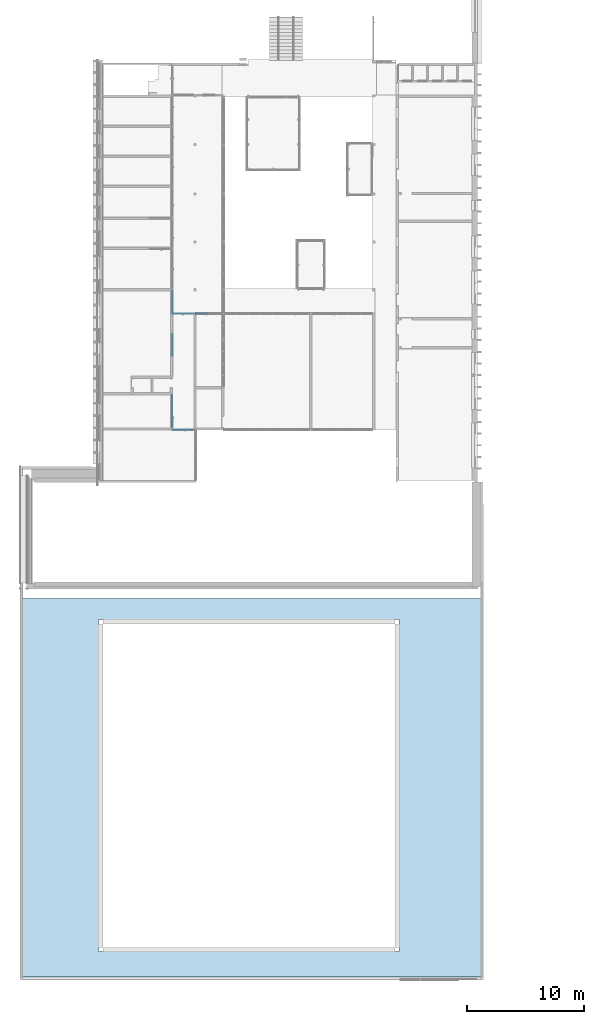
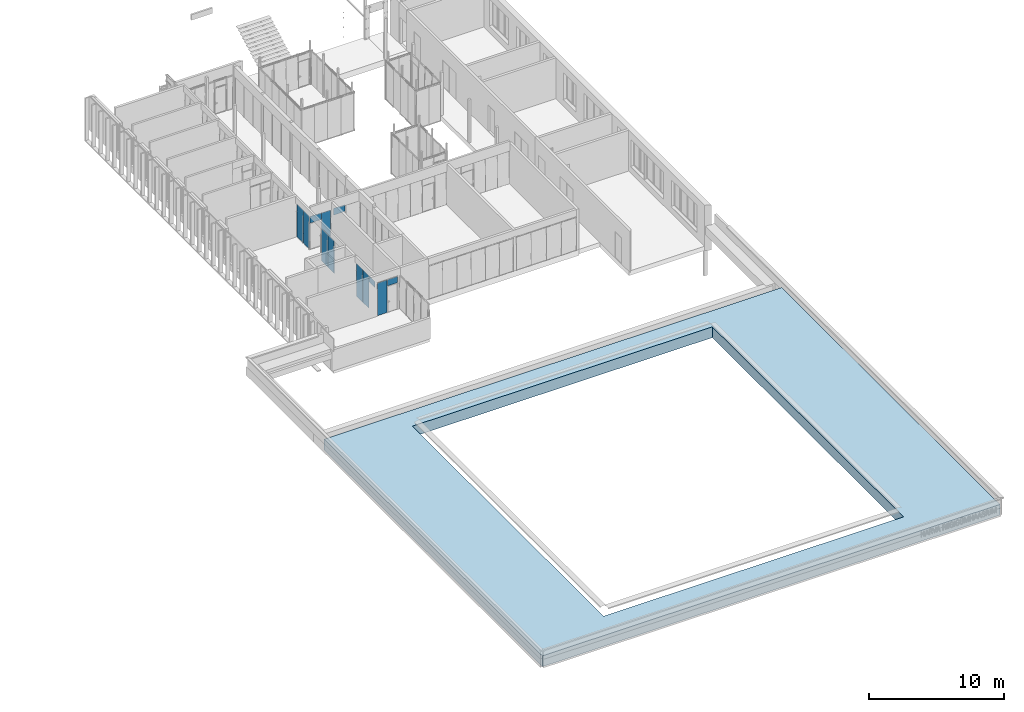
# One storey, part 24 of 387: 12 plates, 1 slab, 1 opening, 6 elements without a shape of their own.
"""IFC2X3 building model written with IfcOpenShell, lengths in millimetres."""

from ifc_helpers import new_model, entity, si_unit, converted_unit, derived_unit, money_unit, direction, frame, origin_with_axes, place, context, subcontext, project, spatial, polyline, outline, extrude, material, layer, layer_set, layer_usage, type_object, element, aggregate, save


model = new_model("IFC2X3")

# Units and contexts
model_context = context("Model", 3, precision=0.01, world=origin_with_axes(), true_north=direction((0.0, 1.0)))
body_context = subcontext(model_context, "Body", "Model", "MODEL_VIEW")
ifc_project = project(units=[si_unit("LENGTHUNIT", "METRE", prefix="MILLI"), si_unit("AREAUNIT", "SQUARE_METRE"), si_unit("VOLUMEUNIT", "CUBIC_METRE"), converted_unit("PLANEANGLEUNIT", "DEGREE", entity("IfcPlaneAngleMeasure", 0.0174532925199), si_unit("PLANEANGLEUNIT", "RADIAN"), dimensions=[0, 0, 0, 0, 0, 0, 0]), si_unit("SOLIDANGLEUNIT", "STERADIAN"), money_unit("EUR"), converted_unit("TIMEUNIT", "Year", entity("IfcTimeMeasure", 31556926.0), si_unit("TIMEUNIT", "SECOND"), dimensions=[0, 0, 1, 0, 0, 0, 0]), si_unit("MASSUNIT", "GRAM", prefix="KILO"), si_unit("THERMODYNAMICTEMPERATUREUNIT", "DEGREE_CELSIUS"), si_unit("LUMINOUSINTENSITYUNIT", "LUMEN"), si_unit("ENERGYUNIT", "JOULE", prefix="MEGA"), derived_unit("THERMALCONDUCTANCEUNIT", [(si_unit("POWERUNIT", "WATT"), 1), (si_unit("LENGTHUNIT", "METRE"), -1), (si_unit("THERMODYNAMICTEMPERATUREUNIT", "KELVIN"), -1)]), derived_unit("SPECIFICHEATCAPACITYUNIT", [(si_unit("ENERGYUNIT", "JOULE"), 1), (si_unit("MASSUNIT", "GRAM", prefix="KILO"), -1), (si_unit("THERMODYNAMICTEMPERATUREUNIT", "KELVIN"), -1)]), derived_unit("MASSDENSITYUNIT", [(si_unit("MASSUNIT", "GRAM", prefix="KILO"), 1), (si_unit("VOLUMEUNIT", "CUBIC_METRE"), -1)])], contexts=[model_context])

# Site, building, storey
site_placement = place(None, origin_with_axes())
site = spatial("IfcSite", under=ifc_project, at=site_placement, Name="Puškini 31, Narva", CompositionType="ELEMENT")
building_placement = place(site_placement, origin_with_axes())
building = spatial("IfcBuilding", under=site, at=building_placement, Name="Narva Riigigümnaasium", CompositionType="ELEMENT")
storey_placement = place(building_placement, frame((0.0, 0.0, 2640.0), z_axis=(0.0, 0.0, 1.0), x_axis=(1.0, 0.0, 0.0)))
storey = spatial("IfcBuildingStorey", under=building, at=storey_placement, Name="2.korrus +2.64", CompositionType="ELEMENT", Elevation=2640.0)

# Curtain wall, plate
curtain_wall_type = type_object("IfcCurtainWallType", Name="Curtain Wall Type", PredefinedType="NOTDEFINED")
curtain_wall_1_placement = place(storey_placement, frame((28389.9972784, 170114.499914, -5.2224053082e-05), z_axis=(0.0, 0.0, 1.0), x_axis=(1.0, 0.0, 0.0)))
curtain_wall_1 = element("IfcCurtainWall", 1, at=curtain_wall_1_placement, inside=storey, type_object=curtain_wall_type, Name="G-SKLF-15.2")
ifc_material_1 = material(Name="VKR-05_Klaas")
plate_type_1 = type_object("IfcPlateType", Name="Siseklaasfassaad - Klaas 15 x 630 x 10", PredefinedType="CURTAIN_PANEL")
plate_1_placement = place(curtain_wall_1_placement, frame((0.0, 0.0, 1692.00001239), z_axis=(0.0, 0.0, 1.0), x_axis=(0.0, -1.0, 0.0)))
plate_1 = element("IfcPlate", 2, at=plate_1_placement, type_object=plate_type_1, material=ifc_material_1, Name="G-SKLF-23-klaas", ObjectType="CURTAIN_PANEL", context=body_context, shape_type="SweptSolid", body=[
    extrude(outline(polyline([(-657.50000666, -1307.99997275), (264.499970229, -1307.99997275), (264.499970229, 1661.99999267), (-657.50000666, 1661.99999267), (-657.50000666, -1307.99997275)])), frame((0.0, -2.5, 0.0), z_axis=(0.0, 1.0, 0.0), x_axis=(1.0, 0.0, 0.0)), (0.0, 0.0, 1.0), 9.00000000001),
])

curtain_wall_2_placement = place(storey_placement, frame((28389.9972784, 173774.499972, -5.2224053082e-05), z_axis=(0.0, 0.0, 1.0), x_axis=(1.0, 0.0, 0.0)))
curtain_wall_2 = element("IfcCurtainWall", 3, at=curtain_wall_2_placement, inside=storey, type_object=curtain_wall_type, Name="G-SKLF-15.2")
plate_2_placement = place(curtain_wall_2_placement, frame((0.0, 0.0, 1692.00001239), z_axis=(0.0, 0.0, 1.0), x_axis=(0.0, -1.0, 0.0)))
plate_2 = element("IfcPlate", 4, at=plate_2_placement, type_object=plate_type_1, material=ifc_material_1, Name="G-SKLF-23-klaas", ObjectType="CURTAIN_PANEL", context=body_context, shape_type="SweptSolid", body=[
    extrude(outline(polyline([(-657.50000666, -1307.99997275), (264.499970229, -1307.99997275), (264.499970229, 1661.99999267), (-657.50000666, 1661.99999267), (-657.50000666, -1307.99997275)])), frame((0.0, -2.5, 0.0), z_axis=(0.0, 1.0, 0.0), x_axis=(1.0, 0.0, 0.0)), (0.0, 0.0, 1.0), 9.00000000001),
])

# Plate
plate_type_2 = type_object("IfcPlateType", Name="Siseklaasfassaad - Klaas 15 x 15 x 10", PredefinedType="CURTAIN_PANEL")
plate_3_placement = place(curtain_wall_1_placement, frame((3.52216034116e-08, 1321.00005713, 1692.00001239), z_axis=(0.0, 0.0, 1.0), x_axis=(0.0, -1.0, 0.0)))
plate_3 = element("IfcPlate", 5, at=plate_3_placement, type_object=plate_type_2, material=ifc_material_1, Name="G-SKLF-23-klaas", ObjectType="CURTAIN_PANEL", context=body_context, shape_type="SweptSolid", body=[
    extrude(outline(polyline([(-264.499961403, -1307.99997275), (660.500044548, -1307.99997275), (660.500044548, 1661.99999267), (-264.499961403, 1661.99999267), (-264.499961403, -1307.99997275)])), frame((0.0, -2.5, 0.0), z_axis=(0.0, 1.0, 0.0), x_axis=(1.0, 0.0, 0.0)), (0.0, 0.0, 1.0), 9.0),
])

aggregate(curtain_wall_1, [plate_1, plate_3])

plate_4_placement = place(curtain_wall_2_placement, frame((3.52216034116e-08, 1321.00005713, 1692.00001239), z_axis=(0.0, 0.0, 1.0), x_axis=(0.0, -1.0, 0.0)))
plate_4 = element("IfcPlate", 6, at=plate_4_placement, type_object=plate_type_2, material=ifc_material_1, Name="G-SKLF-23-klaas", ObjectType="CURTAIN_PANEL", context=body_context, shape_type="SweptSolid", body=[
    extrude(outline(polyline([(-264.499961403, -1307.99997275), (660.500044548, -1307.99997275), (660.500044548, 1661.99999267), (-264.499961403, 1661.99999267), (-264.499961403, -1307.99997275)])), frame((0.0, -2.5, 0.0), z_axis=(0.0, 1.0, 0.0), x_axis=(1.0, 0.0, 0.0)), (0.0, 0.0, 1.0), 9.0),
])

aggregate(curtain_wall_2, [plate_2, plate_4])

# Curtain wall, plates
curtain_wall_3_placement = place(storey_placement, frame((28369.9999994, 164166.500006, -9.21871734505e-06), z_axis=(0.0, 0.0, 1.0), x_axis=(1.0, 0.0, 0.0)))
curtain_wall_3 = element("IfcCurtainWall", 7, at=curtain_wall_3_placement, inside=storey, type_object=curtain_wall_type, Name="G-SKLF-11")
plate_type_3 = type_object("IfcPlateType", Name="901 x 598 x 20", PredefinedType="CURTAIN_PANEL")
plate_5_placement = place(curtain_wall_3_placement, frame((0.0, 0.0, 2715.00000606), z_axis=(0.0, 0.0, 1.0), x_axis=(0.0, -1.0, 0.0)))
plate_5 = element("IfcPlate", 8, at=plate_5_placement, type_object=plate_type_3, material=ifc_material_1, Name="G-SKLF-11-klaas", ObjectType="CURTAIN_PANEL", context=body_context, shape_type="SweptSolid", body=[
    extrude(outline(polyline([(-466.5, -282.999994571), (434.500002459, -282.999994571), (434.500002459, 282.999999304), (-466.5, 282.999999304), (-466.5, -282.999994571)])), frame((0.0, -6.5, 0.0), z_axis=(0.0, 1.0, 0.0), x_axis=(1.0, 0.0, 0.0)), (0.0, 0.0, 1.0), 9.0),
])
plate_type_4 = type_object("IfcPlateType", Name="14 x 630 x 20", PredefinedType="CURTAIN_PANEL")
plate_6_placement = place(curtain_wall_3_placement, frame((1.46513912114e-08, 823.875, 1736.2500034), z_axis=(0.0, 0.0, 1.0), x_axis=(0.0, -1.0, 0.0)))
plate_6 = element("IfcPlate", 9, at=plate_6_placement, type_object=plate_type_4, material=ifc_material_1, Name="G-SKLF-11-klaas", ObjectType="CURTAIN_PANEL", context=body_context, shape_type="SweptSolid", body=[
    extrude(outline(polyline([(-545.624987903, -1263.74997982), (325.374991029, -1263.74997982), (325.374991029, 1706.2499837), (-545.624987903, 1706.2499837), (-545.624987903, -1263.74997982)])), frame((0.0, -6.5, 0.0), z_axis=(0.0, 1.0, 0.0), x_axis=(1.0, 0.0, 0.0)), (0.0, 0.0, 1.0), 9.0),
])

# Curtain wall, plate
curtain_wall_4_placement = place(storey_placement, frame((29819.999977, 163516.999995, -2.6516426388e-05), z_axis=(0.0, 0.0, 1.0), x_axis=(1.0, 0.0, 0.0)))
curtain_wall_4 = element("IfcCurtainWall", 10, at=curtain_wall_4_placement, inside=storey, type_object=curtain_wall_type, Name="G-SKLF-46")
plate_7_placement = place(curtain_wall_4_placement, frame((-871.249999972, 2.42152964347e-08, 1736.25000977), z_axis=(0.0, 0.0, 1.0), x_axis=(1.0, 0.0, 0.0)))
plate_7 = element("IfcPlate", 11, at=plate_7_placement, type_object=plate_type_4, material=ifc_material_1, Name="G-SKLF-46-klaas", ObjectType="CURTAIN_PANEL", context=body_context, shape_type="SweptSolid", body=[
    extrude(outline(polyline([(-518.749994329, -1263.74997885), (309.249990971, -1263.74997885), (309.249990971, 1706.24999002), (-518.749994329, 1706.24999002), (-518.749994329, -1263.74997885)])), frame((0.0, -6.50000002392, 0.0), z_axis=(0.0, 1.0, 0.0), x_axis=(1.0, 0.0, 0.0)), (0.0, 0.0, 1.0), 9.00000002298),
])

# Plate
plate_type_5 = type_object("IfcPlateType", Name="904 x 615 x 20", PredefinedType="CURTAIN_PANEL")
plate_8_placement = place(curtain_wall_3_placement, frame((3.31894511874e-08, 1866.4999973, 1810.00000404), z_axis=(0.0, 0.0, 1.0), x_axis=(0.0, -1.0, 0.0)))
plate_8 = element("IfcPlate", 12, at=plate_8_placement, type_object=plate_type_5, material=ifc_material_1, Name="G-SKLF-11-klaas", ObjectType="CURTAIN_PANEL", context=body_context, shape_type="SweptSolid", body=[
    extrude(outline(polyline([(-436.999985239, -1189.99997917), (466.9999973, -1189.99997917), (466.9999973, 1779.99998434), (-436.999985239, 1779.99998434), (-436.999985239, -1189.99997917)])), frame((0.0, -6.5, 0.0), z_axis=(0.0, 1.0, 0.0), x_axis=(1.0, 0.0, 0.0)), (0.0, 0.0, 1.0), 9.0),
])

aggregate(curtain_wall_3, [plate_5, plate_6, plate_8])

# Curtain wall, plate
curtain_wall_5_placement = place(storey_placement, frame((30909.9999988, 173462.997263, -3.04069565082e-05), z_axis=(0.0, 0.0, 1.0), x_axis=(1.0, 0.0, 0.0)))
curtain_wall_5 = element("IfcCurtainWall", 13, at=curtain_wall_5_placement, inside=storey, type_object=curtain_wall_type, Name="G-SKLF-13")
plate_type_6 = type_object("IfcPlateType", Name="985 x 615 x 10", PredefinedType="CURTAIN_PANEL")
plate_9_placement = place(curtain_wall_5_placement, frame((0.0, 0.0, 2715.00000697), z_axis=(0.0, 0.0, 1.0), x_axis=(-1.0, 0.0, 0.0)))
plate_9 = element("IfcPlate", 14, at=plate_9_placement, type_object=plate_type_6, material=ifc_material_1, Name="G-SKLF-13-klaas", ObjectType="CURTAIN_PANEL", context=body_context, shape_type="SweptSolid", body=[
    extrude(outline(polyline([(-500.0, -314.999978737), (484.999985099, -314.999978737), (484.999985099, 299.999961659), (-500.0, 299.999961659), (-500.0, -314.999978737)])), frame((0.0, -6.50000002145, 0.0), z_axis=(0.0, 1.0, 0.0), x_axis=(1.0, 0.0, 0.0)), (0.0, 0.0, 1.0), 9.00000002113),
])
aggregate(curtain_wall_5, [plate_9])

# Plate
plate_type_7 = type_object("IfcPlateType", Name="868 x 598 x 20", PredefinedType="CURTAIN_PANEL")
plate_10_placement = place(curtain_wall_4_placement, frame((0.0, 0.0, 2652.00001926), z_axis=(0.0, 0.0, 1.0), x_axis=(1.0, 0.0, 0.0)))
plate_10 = element("IfcPlate", 15, at=plate_10_placement, type_object=plate_type_7, material=ifc_material_1, Name="G-SKLF-46-klaas", ObjectType="CURTAIN_PANEL", context=body_context, shape_type="SweptSolid", body=[
    extrude(outline(polyline([(-529.999999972, -345.999989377), (337.999995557, -345.999989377), (337.999995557, 219.999988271), (-529.999999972, 219.999988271), (-529.999999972, -345.999989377)])), frame((0.0, -6.50000002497, 0.0), z_axis=(0.0, 1.0, 0.0), x_axis=(1.0, 0.0, 0.0)), (0.0, 0.0, 1.0), 9.00000002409),
])

aggregate(curtain_wall_4, [plate_10, plate_7])

# Curtain wall, plates
curtain_wall_6_placement = place(storey_placement, frame((28998.3333556, 173449.999984, -2.6516426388e-05), z_axis=(0.0, 0.0, 1.0), x_axis=(1.0, 0.0, 0.0)))
curtain_wall_6 = element("IfcCurtainWall", 16, at=curtain_wall_6_placement, inside=storey, type_object=curtain_wall_type, Name="G-SKLF-15")
ifc_material_2 = material(Name="Klaas")
plate_type_8 = type_object("IfcPlateType", Name="Main Panel 867 x 598 x 20", PredefinedType="CURTAIN_PANEL")
plate_11_placement = place(curtain_wall_6_placement, frame((0.0, 0.0, 2715.00001744), z_axis=(0.0, 0.0, 1.0), x_axis=(-1.0, 0.0, 0.0)))
plate_11 = element("IfcPlate", 17, at=plate_11_placement, type_object=plate_type_8, material=ifc_material_2, Name="G-SKLF-46-klaas", ObjectType="CURTAIN_PANEL", context=body_context, shape_type="SweptSolid", body=[
    extrude(outline(polyline([(-365.666666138, -298.999993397), (600.333340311, -298.999993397), (600.333340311, 298.999987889), (-365.666666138, 298.999987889), (-365.666666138, -298.999993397)])), frame((0.0, -10.0000000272, 0.0), z_axis=(0.0, 1.0, 0.0), x_axis=(1.0, 0.0, 0.0)), (0.0, 0.0, 1.0), 20.0000000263),
])
plate_type_9 = type_object("IfcPlateType", Name="778 x 1 x 20", PredefinedType="CURTAIN_PANEL")
plate_12_placement = place(curtain_wall_6_placement, frame((684.041666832, -1.86730630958e-08, 1736.25000977), z_axis=(0.0, 0.0, 1.0), x_axis=(-1.0, 0.0, 0.0)))
plate_12 = element("IfcPlate", 18, at=plate_12_placement, type_object=plate_type_9, material=ifc_material_1, Name="G-SKLF-46-klaas", ObjectType="CURTAIN_PANEL", context=body_context, shape_type="SweptSolid", body=[
    extrude(outline(polyline([(-477.624983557, -1263.74997885), (285.374989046, -1263.74997885), (285.374989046, 1706.24999002), (-477.624983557, 1706.24999002), (-477.624983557, -1263.74997885)])), frame((0.0, -4.50000002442, 0.0), z_axis=(0.0, 1.0, 0.0), x_axis=(1.0, 0.0, 0.0)), (0.0, 0.0, 1.0), 9.00000002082),
])
aggregate(curtain_wall_6, [plate_11, plate_12])

# Slab, opening
ifc_material_3 = material(Name="SOJ-04_Soojustus - Mineraal Kõva")
ifc_layer_1 = layer(ifc_material_3, 70.0, ventilated="UNKNOWN")
ifc_material_4 = material(Name="ET-06_Teras - Konstruktsioon")
ifc_layer_2 = layer(ifc_material_4, 130.0, ventilated="UNKNOWN")
ifc_material_5 = material(Name="SKR-01_Õhkvahe - Raam")
ifc_layer_3 = layer(ifc_material_5, 755.0, ventilated="UNKNOWN")
ifc_material_6 = material(Name="SKR-04_Puitplaat")
ifc_layer_4 = layer(ifc_material_6, 20.0, ventilated="UNKNOWN")
ifc_layer_set = layer_set([ifc_layer_1, ifc_layer_2, ifc_layer_3, ifc_layer_4], Name="G-KL-06")
ifc_layer_usage = layer_usage(ifc_layer_set, "AXIS3", "NEGATIVE", 975.0)
slab_type = type_object("IfcSlabType", Name="G-KL-06 975", PredefinedType="ROOF")
slab_placement = place(storey_placement, frame((15699.9999984, 150100.000006, 1119.99996403), z_axis=(0.0, 0.0, 1.0), x_axis=(1.0, 2.13806704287e-10, 0.0)))
slab = element("IfcSlab", 19, at=slab_placement, inside=storey, type_object=slab_type, material=ifc_layer_usage, Name="Katuslagi", PredefinedType="ROOF", context=body_context, shape_type="SweptSolid", body=[
    extrude(outline(polyline([(39081.0000013, -1000.00000421), (-148.999998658, -999.99999582), (-149.000005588, -33411.4965264), (39080.9999944, -33411.4965348), (39081.0000013, -1000.00000421)])), origin_with_axes(), (0.0, 0.0, 1.0), 975.0),
])
opening_placement = place(slab_placement, origin_with_axes())
element("IfcOpeningElement", 20, at=opening_placement, cuts=slab, Name="Slab Opening", ObjectType="Recess", context=body_context, shape_type="SweptSolid", body=[
    extrude(outline(polyline([(6354.36735916, -31225.999379), (32075.9999949, -31225.9993845), (32076.000001, -2824.00001692), (6354.36736524, -2824.00001142), (6354.36735916, -31225.999379)])), origin_with_axes(), (0.0, 0.0, 1.0), 975.0),
])

save(model, "model.ifc")
